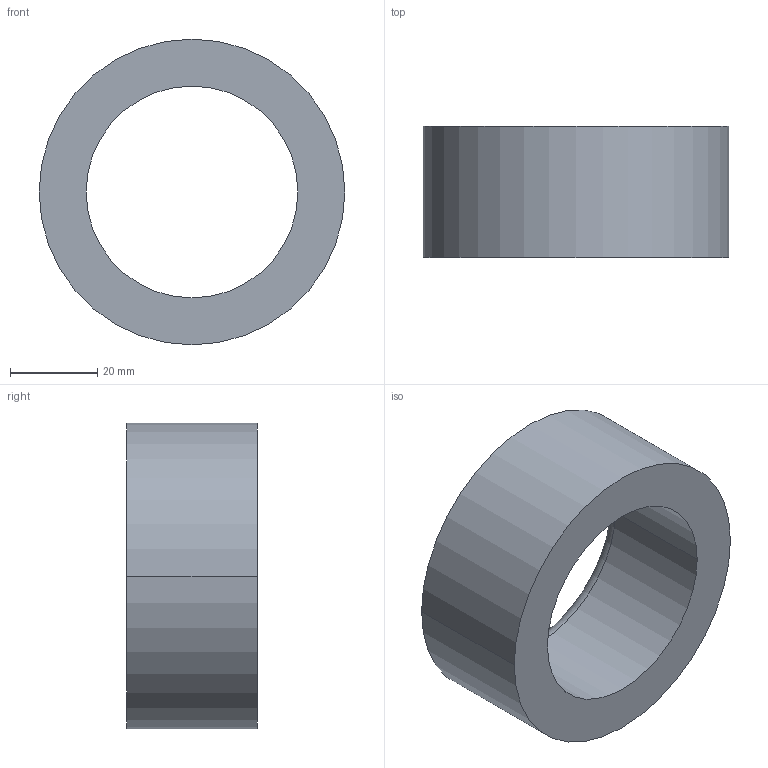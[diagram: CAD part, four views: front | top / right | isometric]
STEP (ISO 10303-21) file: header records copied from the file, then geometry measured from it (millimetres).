
FILE_DESCRIPTION (( 'STEP AP203' ), '1' );
FILE_NAME ('30800.WPP70L48.5.step', '2019-01-23T22:58:54', ( '' ), ( '' ), 'SwSTEP 2.0', 'SolidWorks 2017', '' );
FILE_SCHEMA (( 'CONFIG_CONTROL_DESIGN' ));
Length unit declared in the file: millimetre
Products named in the file (1): 30800.WPP70L48.5
Bounding box: 70 x 30 x 70 mm (x, y, z)
Volume: 59616.5 mm3; surface area: 14946.9 mm2
Topology: 1 solids, 1 shells, 8 faces, 16 edges, 10 vertices
Faces by surface type: cylinder 4, torus 2, plane 2
Entity records: 297 total; most frequent: DIRECTION 46, CARTESIAN_POINT 35, ORIENTED_EDGE 32, AXIS2_PLACEMENT_3D 21, EDGE_CURVE 16, CIRCLE 12, EDGE_LOOP 10, VERTEX_POINT 10
